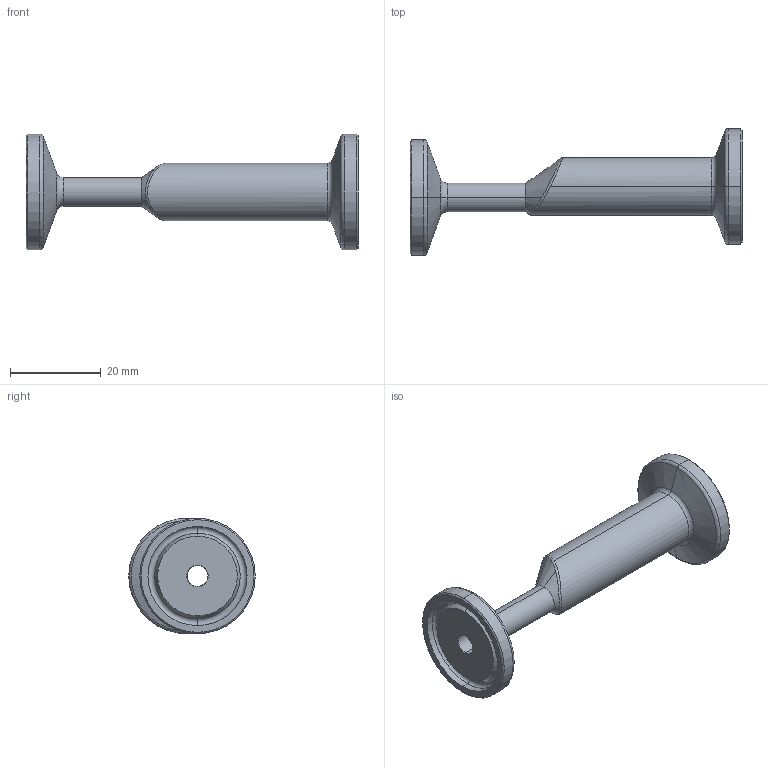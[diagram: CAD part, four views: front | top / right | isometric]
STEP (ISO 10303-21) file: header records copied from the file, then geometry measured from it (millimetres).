
FILE_DESCRIPTION (( 'STEP AP214' ), '1' );
FILE_NAME ('TEG32SCC6L.5x.25-...STEP', '2016-06-01T12:09:26', ( 'eran' ), ( '' ), 'SwSTEP 2.0', 'SolidWorks 2016', '' );
FILE_SCHEMA (( 'AUTOMOTIVE_DESIGN' ));
Length unit declared in the file: millimetre
Products named in the file (1): TEG32SCC6L.5x.25-..
Bounding box: 73.03 x 27.81 x 25.4 mm (x, y, z)
Volume: 7857.2 mm3; surface area: 5957.9 mm2
Topology: 1 solids, 1 shells, 64 faces, 137 edges, 77 vertices
Faces by surface type: cone 22, cylinder 19, torus 17, plane 4, bspline 2
Entity records: 2252 total; most frequent: CARTESIAN_POINT 828, DIRECTION 320, ORIENTED_EDGE 274, AXIS2_PLACEMENT_3D 141, EDGE_CURVE 137, CIRCLE 78, VERTEX_POINT 77, EDGE_LOOP 68
